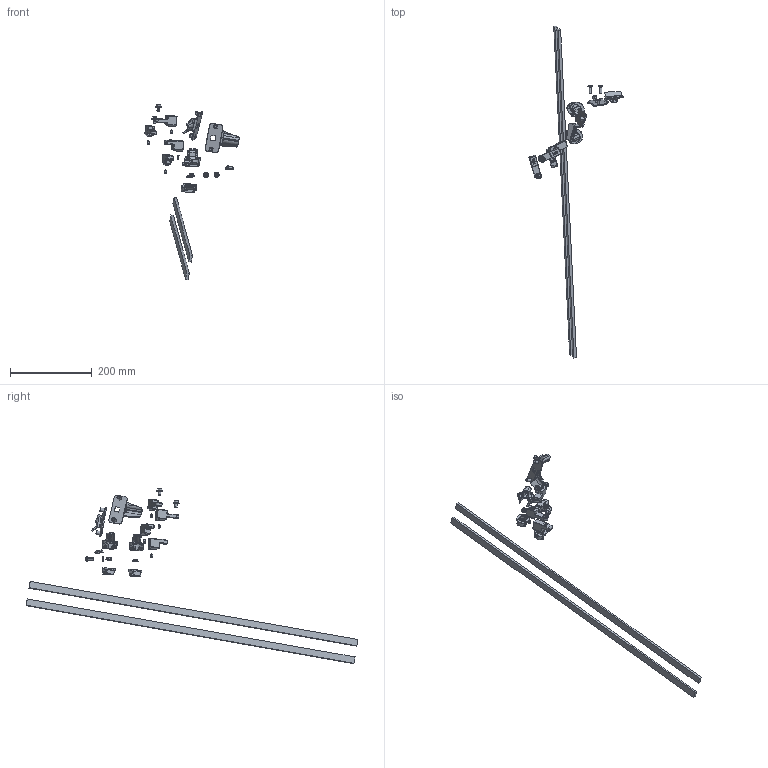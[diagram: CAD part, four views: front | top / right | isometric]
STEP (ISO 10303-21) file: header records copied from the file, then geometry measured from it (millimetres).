
FILE_DESCRIPTION((''),'2;1');
FILE_NAME('SCE-ARK39_ASM','2023-05-08T12:57:52',('dougp'),('SAGINAW CONTROL & ENGINEERING'),'CREO PARAMETRIC BY PTC INC, 2021284','CREO PARAMETRIC BY PTC INC, 2021284','');
FILE_SCHEMA(('AUTOMOTIVE_DESIGN { 1 0 10303 214 1 1 1 1 }'));
Length unit declared in the file: inch
Products named in the file (18): 102236; 100030; 102236_ASM; 102237; 102237_ASM; 100820; 102532; 114509; 128143; 100882; 128144; 128145; 102482; 128146; 112504; 112569_ASM; 130852; SCE-ARK39_ASM
Assembly tree (32 placements, depth 4):
  SCE-ARK39_ASM
    112569_ASM
      102236_ASM
        102236
        100030  x2
      102237_ASM
        102237
        100030  x2
      100820
      102532  x2
      114509  x2
      128143  x2
      100882  x2
      128144  x2
      128145  x2
      102482  x4
      128146  x2
      112504  x2
    130852  x2
Bounding box: 229.7 x 809.73 x 427.8 mm (x, y, z)
Volume: 260638.3 mm3; surface area: 139620.3 mm2
Topology: 29 solids, 29 shells, 2359 faces, 5788 edges, 3502 vertices
Faces by surface type: plane 921, cylinder 600, bspline 506, torus 164, sphere 116, cone 52
Entity records: 76219 total; most frequent: CARTESIAN_POINT 37038, ORIENTED_EDGE 6070, DIRECTION 5221, EDGE_CURVE 3035, PRESENTATION_STYLE_ASSIGNMENT 3034, STYLED_ITEM 3034, CURVE_STYLE 3007, AXIS2_PLACEMENT_3D 1974
